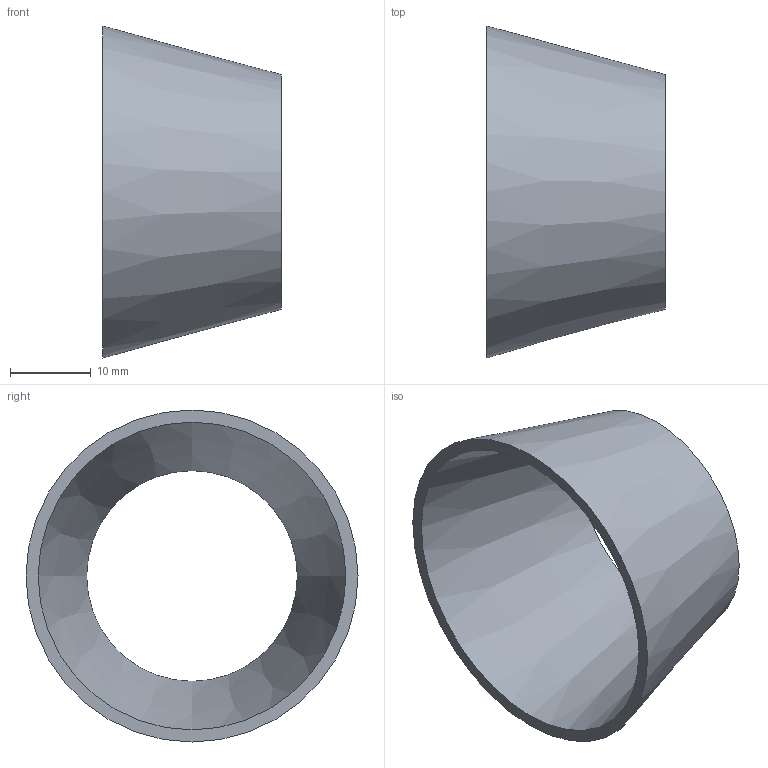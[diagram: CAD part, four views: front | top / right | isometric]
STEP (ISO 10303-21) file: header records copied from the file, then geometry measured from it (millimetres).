
FILE_DESCRIPTION(('FreeCAD Model'),'2;1');
FILE_NAME( '/home/martin/Documents/proyect/accesorios/stp/red-con_DN40-25.step', '2017-12-31T12:23:06',('Author'),(''), 'Open CASCADE STEP processor 6.8','FreeCAD','Unknown');
FILE_SCHEMA(('AUTOMOTIVE_DESIGN_CC2 { 1 2 10303 214 -1 1 5 4 }'));
Length unit declared in the file: millimetre
Products named in the file (1): red-con_DN40-25
Bounding box: 22 x 41 x 41 mm (x, y, z)
Volume: 3473 mm3; surface area: 5115.6 mm2
Topology: 1 solids, 1 shells, 4 faces, 6 edges, 4 vertices
Faces by surface type: cone 2, plane 2
Entity records: 191 total; most frequent: CARTESIAN_POINT 33, DIRECTION 26, ORIENTED_EDGE 12, PCURVE 12, DEFINITIONAL_REPRESENTATION 12, AXIS2_PLACEMENT_3D 9, CIRCLE 8, FACE_BOUND 6
